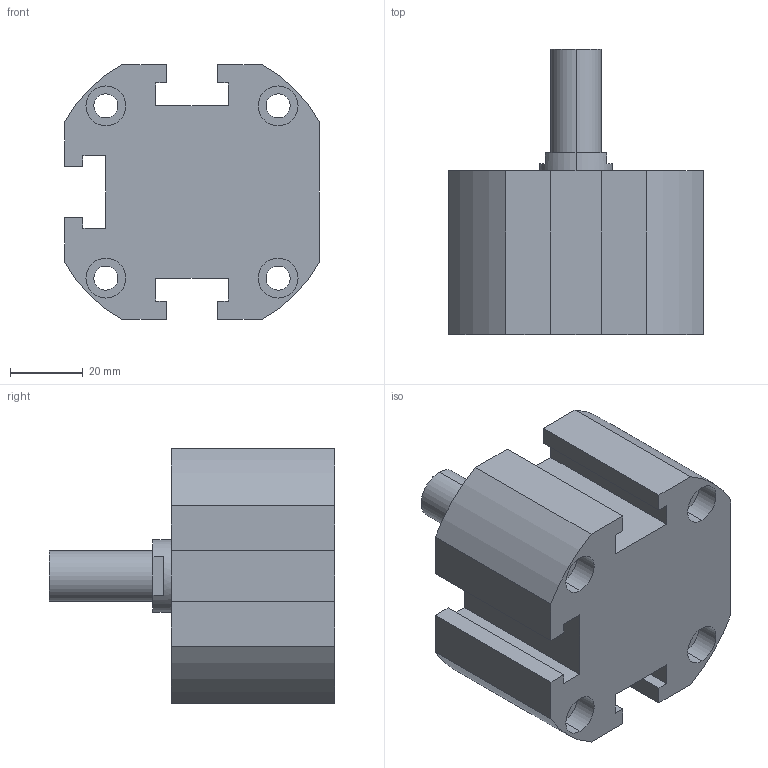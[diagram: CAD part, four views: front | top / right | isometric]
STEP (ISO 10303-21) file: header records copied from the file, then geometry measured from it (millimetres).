
FILE_DESCRIPTION (( 'STEP AP203' ), '1' );
FILE_NAME ('XC#M2-50D-10.STEP', '2016-05-23T08:46:27', ( '' ), ( '' ), 'SwSTEP 2.0', 'SolidWorks 2014', '' );
FILE_SCHEMA (( 'CONFIG_CONTROL_DESIGN' ));
Length unit declared in the file: millimetre
Products named in the file (1): XC#M2-50D-10
Bounding box: 70 x 78.5 x 70 mm (x, y, z)
Volume: 170201.6 mm3; surface area: 30439.4 mm2
Topology: 1 solids, 1 shells, 113 faces, 279 edges, 182 vertices
Faces by surface type: cylinder 54, plane 51, cone 8
Entity records: 3450 total; most frequent: DIRECTION 623, CARTESIAN_POINT 571, ORIENTED_EDGE 550, EDGE_CURVE 275, AXIS2_PLACEMENT_3D 234, VERTEX_POINT 182, VECTOR 155, LINE 155
